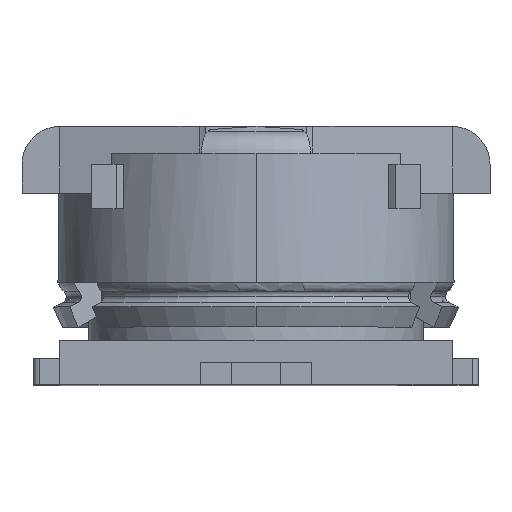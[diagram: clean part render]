
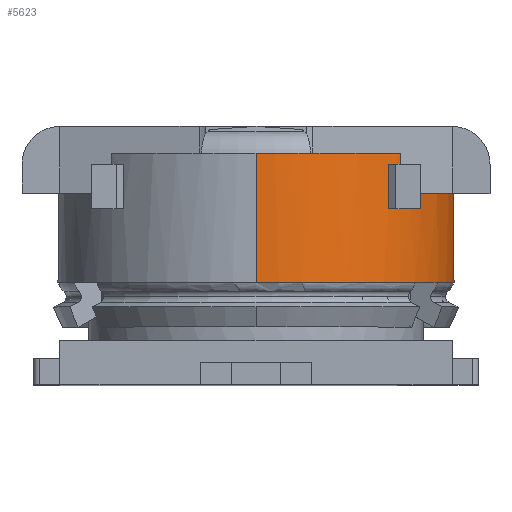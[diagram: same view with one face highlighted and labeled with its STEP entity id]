
A CAD part, top view. The second image highlights one B-rep face of the part: STEP entity #5623.
In plain terms, the highlighted cylindrical face has radius 0.89 mm (diameter 1.78 mm), a partial arc.
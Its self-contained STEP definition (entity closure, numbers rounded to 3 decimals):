
#30 = EDGE_CURVE ( 'NONE', #3912, #7181, #1250, .T. ) ;
#239 = CARTESIAN_POINT ( 'NONE',  ( 0., 0.51, 0.89 ) ) ;
#360 = CARTESIAN_POINT ( 'NONE',  ( 0.647, 1.04, 0.611 ) ) ;
#397 = VERTEX_POINT ( 'NONE', #3285 ) ;
#415 = EDGE_CURVE ( 'NONE', #3545, #3530, #3384, .T. ) ;
#489 = VECTOR ( 'NONE', #1757, 1000. ) ;
#505 = CIRCLE ( 'NONE', #6244, 0.89 ) ;
#563 = CIRCLE ( 'NONE', #3642, 0.89 ) ;
#565 = EDGE_LOOP ( 'NONE', ( #2977, #5126, #716, #2450, #3735, #4861, #2024, #1152, #5298, #4947, #6159, #5557, #3045 ) ) ;
#634 = CARTESIAN_POINT ( 'NONE',  ( 0.647, 0.99, 0.611 ) ) ;
#716 = ORIENTED_EDGE ( 'NONE', *, *, #2401, .F. ) ;
#798 = CARTESIAN_POINT ( 'NONE',  ( 0., 0.79, 0. ) ) ;
#854 = DIRECTION ( 'NONE',  ( 0., 1., 0. ) ) ;
#877 = DIRECTION ( 'NONE',  ( 0., 0., 1. ) ) ;
#891 = LINE ( 'NONE', #5250, #3657 ) ;
#929 = DIRECTION ( 'NONE',  ( 0., 1., 0. ) ) ;
#954 = AXIS2_PLACEMENT_3D ( 'NONE', #798, #854, #877 ) ;
#1011 = AXIS2_PLACEMENT_3D ( 'NONE', #2634, #2303, #3869 ) ;
#1076 = DIRECTION ( 'NONE',  ( 0., 0., 1. ) ) ;
#1087 = EDGE_CURVE ( 'NONE', #1324, #6422, #891, .T. ) ;
#1152 = ORIENTED_EDGE ( 'NONE', *, *, #1601, .T. ) ;
#1177 = DIRECTION ( 'NONE',  ( 0., 1., 0. ) ) ;
#1245 = CARTESIAN_POINT ( 'NONE',  ( 0., 0.46, -0.89 ) ) ;
#1250 = CIRCLE ( 'NONE', #1011, 0.89 ) ;
#1324 = VERTEX_POINT ( 'NONE', #634 ) ;
#1395 = CARTESIAN_POINT ( 'NONE',  ( 0.516, 1.04, -0.725 ) ) ;
#1601 = EDGE_CURVE ( 'NONE', #397, #4941, #4593, .T. ) ;
#1757 = DIRECTION ( 'NONE',  ( 0., 1., 0. ) ) ;
#1833 = EDGE_CURVE ( 'NONE', #397, #4414, #5164, .T. ) ;
#1869 = DIRECTION ( 'NONE',  ( 0., 1., 0. ) ) ;
#1908 = EDGE_CURVE ( 'NONE', #7181, #6422, #2062, .T. ) ;
#1960 = VERTEX_POINT ( 'NONE', #5869 ) ;
#2024 = ORIENTED_EDGE ( 'NONE', *, *, #1833, .F. ) ;
#2048 = CYLINDRICAL_SURFACE ( 'NONE', #6812, 0.89 ) ;
#2062 = CIRCLE ( 'NONE', #3542, 0.89 ) ;
#2093 = VERTEX_POINT ( 'NONE', #4173 ) ;
#2176 = EDGE_CURVE ( 'NONE', #3545, #1960, #4906, .T. ) ;
#2186 = DIRECTION ( 'NONE',  ( 0., 1., 0. ) ) ;
#2204 = DIRECTION ( 'NONE',  ( 0., -1., 0. ) ) ;
#2252 = CARTESIAN_POINT ( 'NONE',  ( 0., 0.46, 0. ) ) ;
#2303 = DIRECTION ( 'NONE',  ( 0., 1., 0. ) ) ;
#2350 = AXIS2_PLACEMENT_3D ( 'NONE', #2252, #4279, #7075 ) ;
#2379 = CARTESIAN_POINT ( 'NONE',  ( 0.245, 1.04, 0.856 ) ) ;
#2401 = EDGE_CURVE ( 'NONE', #3031, #1960, #563, .T. ) ;
#2450 = ORIENTED_EDGE ( 'NONE', *, *, #4427, .F. ) ;
#2484 = CARTESIAN_POINT ( 'NONE',  ( 0.739, 0.79, 0.496 ) ) ;
#2565 = CIRCLE ( 'NONE', #4704, 0.89 ) ;
#2582 = DIRECTION ( 'NONE',  ( 0., -1., 0. ) ) ;
#2634 = CARTESIAN_POINT ( 'NONE',  ( 0., 1.04, 0. ) ) ;
#2649 = CARTESIAN_POINT ( 'NONE',  ( 0., 1.04, 0.89 ) ) ;
#2806 = VECTOR ( 'NONE', #4668, 1000. ) ;
#2977 = ORIENTED_EDGE ( 'NONE', *, *, #415, .F. ) ;
#3031 = VERTEX_POINT ( 'NONE', #3981 ) ;
#3045 = ORIENTED_EDGE ( 'NONE', *, *, #6273, .F. ) ;
#3053 = DIRECTION ( 'NONE',  ( 0., -1., 0. ) ) ;
#3285 = CARTESIAN_POINT ( 'NONE',  ( 0.595, 0.79, 0.662 ) ) ;
#3384 = CIRCLE ( 'NONE', #2350, 0.89 ) ;
#3431 = CARTESIAN_POINT ( 'NONE',  ( 0., 0.46, 0.89 ) ) ;
#3527 = DIRECTION ( 'NONE',  ( 0., 0., 1. ) ) ;
#3530 = VERTEX_POINT ( 'NONE', #3431 ) ;
#3542 = AXIS2_PLACEMENT_3D ( 'NONE', #6335, #3633, #3527 ) ;
#3545 = VERTEX_POINT ( 'NONE', #1245 ) ;
#3633 = DIRECTION ( 'NONE',  ( 0., 1., 0. ) ) ;
#3642 = AXIS2_PLACEMENT_3D ( 'NONE', #5182, #1869, #5737 ) ;
#3657 = VECTOR ( 'NONE', #5193, 1000. ) ;
#3720 = VERTEX_POINT ( 'NONE', #6341 ) ;
#3735 = ORIENTED_EDGE ( 'NONE', *, *, #6101, .T. ) ;
#3869 = DIRECTION ( 'NONE',  ( 0., 0., 1. ) ) ;
#3912 = VERTEX_POINT ( 'NONE', #2649 ) ;
#3981 = CARTESIAN_POINT ( 'NONE',  ( 0.516, 0.61, -0.725 ) ) ;
#4173 = CARTESIAN_POINT ( 'NONE',  ( 0.516, 0.86, -0.725 ) ) ;
#4234 = VECTOR ( 'NONE', #3053, 1000. ) ;
#4279 = DIRECTION ( 'NONE',  ( 0., -1., 0. ) ) ;
#4414 = VERTEX_POINT ( 'NONE', #2484 ) ;
#4427 = EDGE_CURVE ( 'NONE', #2093, #3031, #5687, .T. ) ;
#4476 = CARTESIAN_POINT ( 'NONE',  ( 0., 0.99, 0. ) ) ;
#4477 = EDGE_CURVE ( 'NONE', #3720, #4414, #6802, .T. ) ;
#4593 = LINE ( 'NONE', #6789, #6232 ) ;
#4668 = DIRECTION ( 'NONE',  ( 0., 1., 0. ) ) ;
#4704 = AXIS2_PLACEMENT_3D ( 'NONE', #5516, #2204, #6074 ) ;
#4861 = ORIENTED_EDGE ( 'NONE', *, *, #4477, .T. ) ;
#4906 = LINE ( 'NONE', #5624, #489 ) ;
#4941 = VERTEX_POINT ( 'NONE', #6903 ) ;
#4947 = ORIENTED_EDGE ( 'NONE', *, *, #1087, .T. ) ;
#5032 = DIRECTION ( 'NONE',  ( 0., 0., 1. ) ) ;
#5126 = ORIENTED_EDGE ( 'NONE', *, *, #2176, .T. ) ;
#5142 = FACE_OUTER_BOUND ( 'NONE', #565, .T. ) ;
#5164 = CIRCLE ( 'NONE', #954, 0.89 ) ;
#5182 = CARTESIAN_POINT ( 'NONE',  ( 0., 0.61, 0. ) ) ;
#5193 = DIRECTION ( 'NONE',  ( 0., 1., 0. ) ) ;
#5250 = CARTESIAN_POINT ( 'NONE',  ( 0.647, -2.057, 0.611 ) ) ;
#5298 = ORIENTED_EDGE ( 'NONE', *, *, #7068, .T. ) ;
#5350 = VECTOR ( 'NONE', #2582, 1000. ) ;
#5396 = LINE ( 'NONE', #239, #2806 ) ;
#5516 = CARTESIAN_POINT ( 'NONE',  ( 0., 0.86, 0. ) ) ;
#5557 = ORIENTED_EDGE ( 'NONE', *, *, #30, .F. ) ;
#5623 = ADVANCED_FACE ( 'NONE', ( #5142 ), #2048, .T. ) ;
#5624 = CARTESIAN_POINT ( 'NONE',  ( 0., 0.51, -0.89 ) ) ;
#5687 = LINE ( 'NONE', #1395, #4234 ) ;
#5737 = DIRECTION ( 'NONE',  ( 0., 0., 1. ) ) ;
#5869 = CARTESIAN_POINT ( 'NONE',  ( 0., 0.61, -0.89 ) ) ;
#5890 = CARTESIAN_POINT ( 'NONE',  ( 0.739, -2.057, 0.496 ) ) ;
#6060 = CARTESIAN_POINT ( 'NONE',  ( 0., 0.51, 0. ) ) ;
#6074 = DIRECTION ( 'NONE',  ( 0., 0., 1. ) ) ;
#6101 = EDGE_CURVE ( 'NONE', #2093, #3720, #2565, .T. ) ;
#6159 = ORIENTED_EDGE ( 'NONE', *, *, #1908, .F. ) ;
#6232 = VECTOR ( 'NONE', #929, 1000. ) ;
#6244 = AXIS2_PLACEMENT_3D ( 'NONE', #4476, #1177, #5032 ) ;
#6273 = EDGE_CURVE ( 'NONE', #3530, #3912, #5396, .T. ) ;
#6335 = CARTESIAN_POINT ( 'NONE',  ( 0., 1.04, 0. ) ) ;
#6341 = CARTESIAN_POINT ( 'NONE',  ( 0.739, 0.86, 0.496 ) ) ;
#6422 = VERTEX_POINT ( 'NONE', #360 ) ;
#6789 = CARTESIAN_POINT ( 'NONE',  ( 0.595, -2.057, 0.662 ) ) ;
#6802 = LINE ( 'NONE', #5890, #5350 ) ;
#6812 = AXIS2_PLACEMENT_3D ( 'NONE', #6060, #2186, #1076 ) ;
#6903 = CARTESIAN_POINT ( 'NONE',  ( 0.595, 0.99, 0.662 ) ) ;
#7068 = EDGE_CURVE ( 'NONE', #4941, #1324, #505, .T. ) ;
#7075 = DIRECTION ( 'NONE',  ( 0., 0., 1. ) ) ;
#7181 = VERTEX_POINT ( 'NONE', #2379 ) ;
